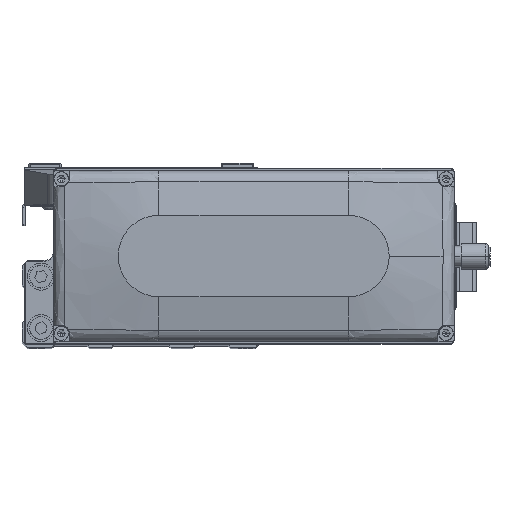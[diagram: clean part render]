
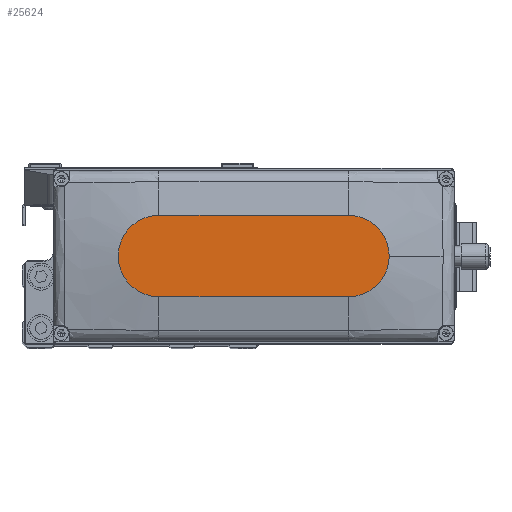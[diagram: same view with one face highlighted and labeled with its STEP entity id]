
A CAD part, top view. The second image highlights one B-rep face of the part: STEP entity #25624.
In plain terms, the highlighted planar face has unit normal (0, 0, 1).
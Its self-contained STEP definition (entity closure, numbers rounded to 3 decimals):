
#296 = PLANE ( 'NONE',  #44844 ) ;
#648 = CARTESIAN_POINT ( 'NONE',  ( -35., 15., 35. ) ) ;
#814 = EDGE_CURVE ( 'NONE', #41201, #29955, #8864, .T. ) ;
#1944 = VERTEX_POINT ( 'NONE', #15291 ) ;
#2251 = EDGE_CURVE ( 'NONE', #1944, #26715, #46629, .T. ) ;
#3111 = AXIS2_PLACEMENT_3D ( 'NONE', #42813, #10451, #24887 ) ;
#3564 = VERTEX_POINT ( 'NONE', #20513 ) ;
#5748 = DIRECTION ( 'NONE',  ( 0., 0., 1. ) ) ;
#8567 = AXIS2_PLACEMENT_3D ( 'NONE', #31641, #46025, #13698 ) ;
#8864 = LINE ( 'NONE', #23312, #32043 ) ;
#9968 = CARTESIAN_POINT ( 'NONE',  ( 35., -15., 35. ) ) ;
#10451 = DIRECTION ( 'NONE',  ( 0., 0., 1. ) ) ;
#10825 = EDGE_CURVE ( 'NONE', #26715, #3564, #43871, .T. ) ;
#12240 = CARTESIAN_POINT ( 'NONE',  ( 35., 15., 35. ) ) ;
#13698 = DIRECTION ( 'NONE',  ( 1., 0., 0. ) ) ;
#14306 = CARTESIAN_POINT ( 'NONE',  ( -35., -15., 35. ) ) ;
#14767 = CARTESIAN_POINT ( 'NONE',  ( 0., 0., 35. ) ) ;
#15291 = CARTESIAN_POINT ( 'NONE',  ( -35., -15., 35. ) ) ;
#15600 = CIRCLE ( 'NONE', #41990, 15. ) ;
#19832 = ORIENTED_EDGE ( 'NONE', *, *, #38627, .T. ) ;
#20201 = DIRECTION ( 'NONE',  ( 1., 0., 0. ) ) ;
#20513 = CARTESIAN_POINT ( 'NONE',  ( 50., 0., 35. ) ) ;
#20786 = ORIENTED_EDGE ( 'NONE', *, *, #2251, .T. ) ;
#23312 = CARTESIAN_POINT ( 'NONE',  ( -35., 15., 35. ) ) ;
#24887 = DIRECTION ( 'NONE',  ( 1., 0., 0. ) ) ;
#25624 = ADVANCED_FACE ( 'NONE', ( #32710 ), #296, .T. ) ;
#26715 = VERTEX_POINT ( 'NONE', #9968 ) ;
#27996 = ORIENTED_EDGE ( 'NONE', *, *, #41687, .T. ) ;
#28710 = DIRECTION ( 'NONE',  ( 1., 0., 0. ) ) ;
#28944 = CIRCLE ( 'NONE', #8567, 15. ) ;
#29168 = DIRECTION ( 'NONE',  ( 0., 0., 1. ) ) ;
#29955 = VERTEX_POINT ( 'NONE', #648 ) ;
#31535 = VECTOR ( 'NONE', #28710, 1000. ) ;
#31641 = CARTESIAN_POINT ( 'NONE',  ( 35., 0., 35. ) ) ;
#32043 = VECTOR ( 'NONE', #37707, 1000. ) ;
#32101 = ORIENTED_EDGE ( 'NONE', *, *, #10825, .T. ) ;
#32710 = FACE_OUTER_BOUND ( 'NONE', #45121, .T. ) ;
#34456 = ORIENTED_EDGE ( 'NONE', *, *, #814, .T. ) ;
#37707 = DIRECTION ( 'NONE',  ( -1., 0., 0. ) ) ;
#38143 = CARTESIAN_POINT ( 'NONE',  ( -35., 0., 35. ) ) ;
#38627 = EDGE_CURVE ( 'NONE', #3564, #41201, #28944, .T. ) ;
#41201 = VERTEX_POINT ( 'NONE', #12240 ) ;
#41687 = EDGE_CURVE ( 'NONE', #29955, #1944, #15600, .T. ) ;
#41990 = AXIS2_PLACEMENT_3D ( 'NONE', #38143, #5748, #20201 ) ;
#42813 = CARTESIAN_POINT ( 'NONE',  ( 35., 0., 35. ) ) ;
#43570 = DIRECTION ( 'NONE',  ( 1., 0., 0. ) ) ;
#43871 = CIRCLE ( 'NONE', #3111, 15. ) ;
#44844 = AXIS2_PLACEMENT_3D ( 'NONE', #14767, #29168, #43570 ) ;
#45121 = EDGE_LOOP ( 'NONE', ( #34456, #27996, #20786, #32101, #19832 ) ) ;
#46025 = DIRECTION ( 'NONE',  ( 0., 0., 1. ) ) ;
#46629 = LINE ( 'NONE', #14306, #31535 ) ;
